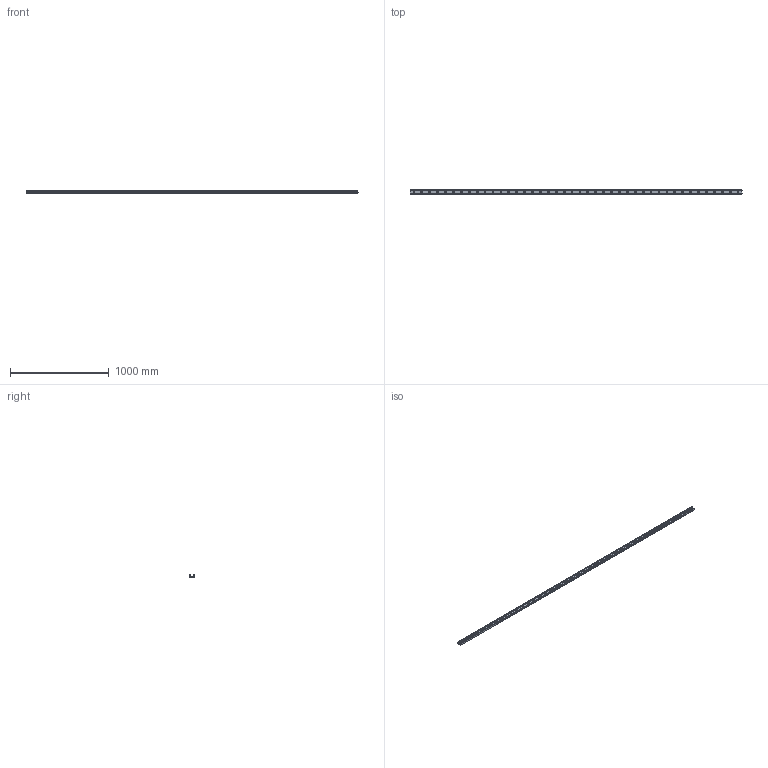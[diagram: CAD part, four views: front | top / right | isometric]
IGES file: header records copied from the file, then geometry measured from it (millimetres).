
Start section: SolidWorks IGES file using analytic representation for surfaces
Global section: file name: C:\Users\IanO\Desktop\43\L1943.ULC43_v2_20180121_IGES\L1943.ULC43-3360.igs; native system: SolidWorks 2017; preprocessor: SolidWorks 2017; author: IanO; date: 190121.085255; units: millimetre
Bounding box: 3360 x 43 x 21 mm (x, y, z)
Surface area: 526835.2 mm2 (no closed solid volume)
Topology: 0 solids, 0 shells, 236 faces, 6342 edges, 6342 vertices
Faces by surface type: revolution 181, bspline 55
